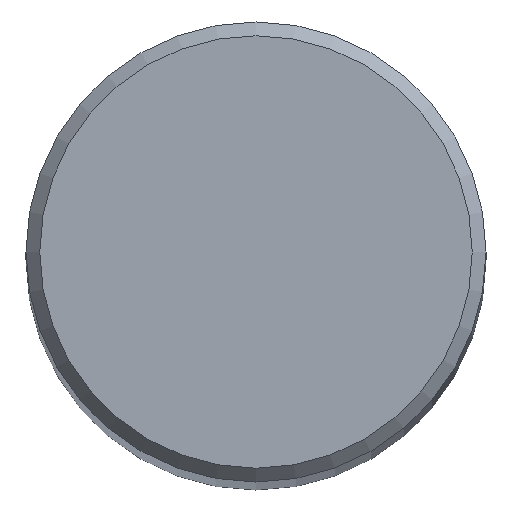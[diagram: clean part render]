
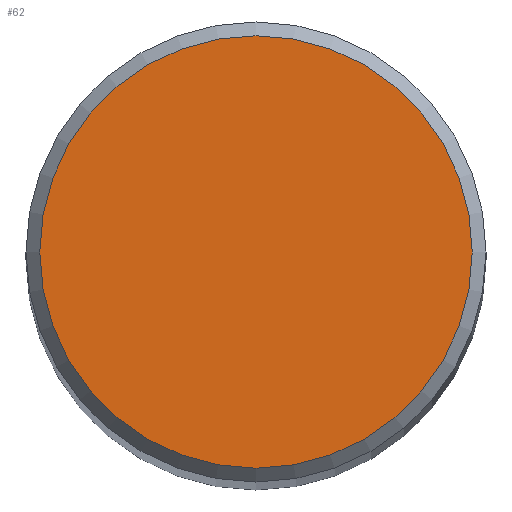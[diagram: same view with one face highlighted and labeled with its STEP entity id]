
A CAD part, top view. The second image highlights one B-rep face of the part: STEP entity #62.
In plain terms, the highlighted planar face has unit normal (0, 0, 1).
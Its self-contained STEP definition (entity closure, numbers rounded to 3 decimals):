
#62=ADVANCED_FACE('',(#107),#109,.T.);
#107=FACE_BOUND('',#108,.T.);
#108=EDGE_LOOP('',(#141));
#109=PLANE('',#110);
#110=AXIS2_PLACEMENT_3D('',#111,#112,#113);
#111=CARTESIAN_POINT('',(0.,0.,500.));
#112=DIRECTION('',(0.,0.,1.));
#113=DIRECTION('',(-1.,0.,0.));
#141=ORIENTED_EDGE('',*,*,#149,.T.);
#149=EDGE_CURVE('',#155,#155,#156,.T.);
#155=VERTEX_POINT('',#169);
#156=CIRCLE('',#170,23.5);
#169=CARTESIAN_POINT('',(-23.5,0.,500.));
#170=AXIS2_PLACEMENT_3D('',#171,#172,#173);
#171=CARTESIAN_POINT('',(0.,0.,500.));
#172=DIRECTION('',(0.,0.,1.));
#173=DIRECTION('',(-1.,0.,0.));
